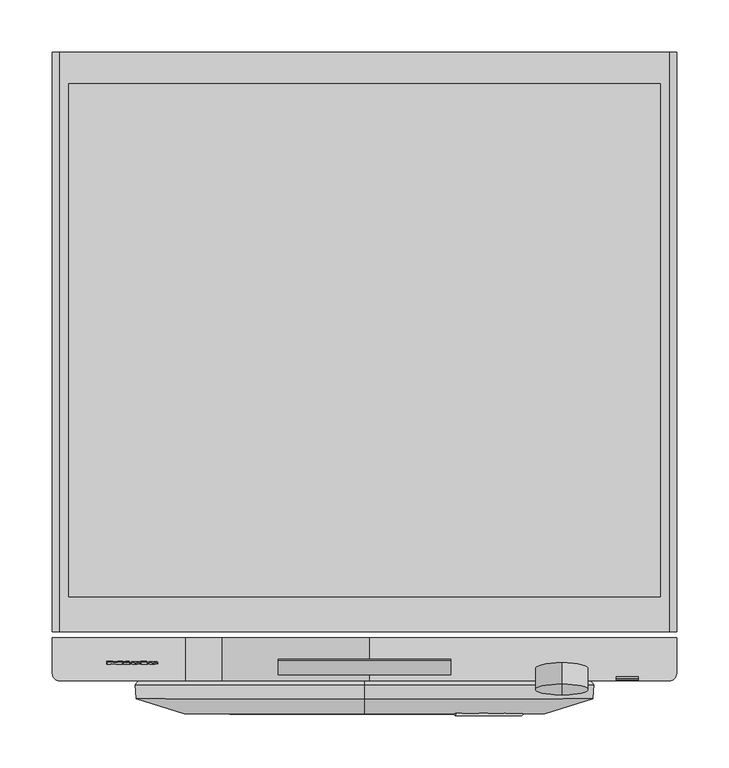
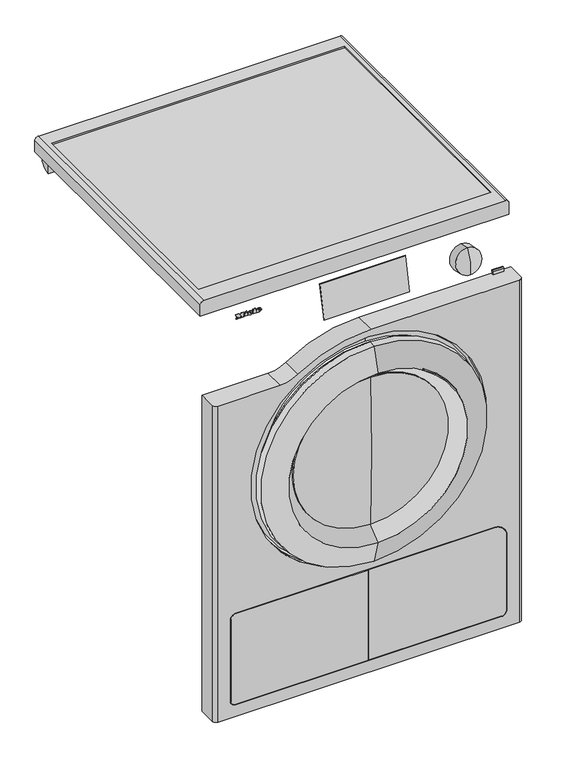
"""IFC4 building model written with IfcOpenShell, lengths in millimetres: proxy geometry, 13168560_GB_PDR1108HP_LWSmartBi : 52110802_GB_13168560_PDR1108HP_LWSmartBi."""

from ifc_helpers import new_model, si_unit, point, frame, frame_2d, origin, place, context, project, spatial, polyline, circle_curve, ellipse_curve, trimmed, segment, composite_curve, outline, extrude, source, transform, mapped, element, save
from ifc_brep_helpers import plane_surface, cylinder_surface, revolved_surface, extruded_surface, advanced_brep


def specialty_equipment_986e4557(model_context):
    return source(origin(), model_context, "Body", "SolidModel", [
        advanced_brep(
        [(-202.64, -583.6785086, 811.5729364), (-202.64, -583.5105159, 812.3632796), (-197.288, -583.5105159, 812.3632796), (-206.6, -583.5105159, 812.3632796), (-204.4, -584.0727091, 809.7183685), (-197.424, -583.6785086, 811.5729364), (-199.84, -583.6785086, 811.5729364), (-201.744, -583.8647975, 810.6965161), (-202.64, -583.2976144, 813.3649028), (-202.64, -583.1163154, 814.2178475), (-201.272, -583.1163154, 814.2178475), (-201.272, -583.2976144, 813.3649028), (-202.64, -582.700361, 811.3650247), (-201.744, -582.8866499, 810.4886044), (-199.84, -582.700361, 811.3650247), (-197.424, -582.700361, 811.3650247), (-204.4, -583.0945615, 809.5104568), (-206.6, -582.5323683, 812.1553679), (-197.288, -582.5323683, 812.1553679), (-202.64, -582.5323683, 812.1553679), (-202.64, -582.3194668, 813.1569911), (-201.272, -582.3194668, 813.1569911), (-201.272, -582.1381678, 814.0099358), (-202.64, -582.1381678, 814.0099358)],
        [
            (0, 1),
            (1, 2),
            (2, 3, ellipse_curve(frame((-201.944, -583.5105159, 812.3632796), z_axis=(0.0, -0.9781476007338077, 0.2079116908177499), x_axis=(-1.0, 0.0, 0.0)), 4.656, 3.848)),
            (3, 4, circle_curve(frame((-203.5039564, -583.453964, 812.6293358), z_axis=(0.0, -0.9781476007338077, 0.2079116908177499), x_axis=(0.0, -0.2079116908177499, -0.9781476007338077)), 3.1079688)),
            (4, 5, circle_curve(frame((-202.0372064, -583.0148545, 814.6951835), z_axis=(0.0, -0.9781476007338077, 0.2079116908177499), x_axis=(0.0, -0.2079116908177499, -0.9781476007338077)), 5.6098607)),
            (5, 6),
            (6, 7, circle_curve(frame((-201.3529412, -583.5238223, 812.3006782), z_axis=(0.0, 0.9781476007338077, -0.2079116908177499), x_axis=(0.0, -0.2079116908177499, -0.9781476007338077)), 1.6859795)),
            (7, 0, circle_curve(frame((-201.744, -583.6785086, 811.5729364), z_axis=(0.0, 0.9781476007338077, -0.2079116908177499), x_axis=(0.0, -0.2079116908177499, -0.9781476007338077)), 0.896)),
            (8, 9),
            (9, 10, circle_curve(frame((-201.956, -583.1163154, 814.2178475), z_axis=(0.0, 0.9781476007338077, -0.2079116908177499), x_axis=(0.0, -0.2079116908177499, -0.9781476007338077)), 0.684)),
            (10, 11),
            (11, 8),
            (12, 13, circle_curve(frame((-201.744, -582.700361, 811.3650247), z_axis=(0.0, -0.9781476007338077, 0.2079116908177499), x_axis=(0.0, -0.2079116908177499, -0.9781476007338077)), 0.896)),
            (13, 14, circle_curve(frame((-201.3529412, -582.5456747, 812.0927665), z_axis=(0.0, -0.9781476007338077, 0.2079116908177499), x_axis=(0.0, -0.2079116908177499, -0.9781476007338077)), 1.6859795)),
            (14, 15),
            (15, 16, circle_curve(frame((-202.0372064, -582.0367069, 814.4872718), z_axis=(0.0, 0.9781476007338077, -0.2079116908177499), x_axis=(0.0, -0.2079116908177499, -0.9781476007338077)), 5.6098607)),
            (16, 17, circle_curve(frame((-203.5039564, -582.4758164, 812.4214241), z_axis=(0.0, 0.9781476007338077, -0.2079116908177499), x_axis=(0.0, -0.2079116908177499, -0.9781476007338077)), 3.1079688)),
            (17, 18, ellipse_curve(frame((-201.944, -582.5323683, 812.1553679), z_axis=(0.0, 0.9781476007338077, -0.2079116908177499), x_axis=(-1.0, 0.0, 0.0)), 4.656, 3.848)),
            (18, 19),
            (19, 12),
            (20, 21),
            (21, 22),
            (22, 23, circle_curve(frame((-201.956, -582.1381678, 814.0099358), z_axis=(0.0, -0.9781476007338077, 0.2079116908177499), x_axis=(0.0, -0.2079116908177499, -0.9781476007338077)), 0.684)),
            (23, 20),
            (0, 12),
            (19, 1),
            (18, 2),
            (5, 15),
            (14, 6),
            (17, 3),
            (13, 7),
            (16, 4),
            (8, 20),
            (23, 9),
            (22, 10),
            (21, 11),
        ],
        [
            plane_surface(frame((-202.64, -583.5105159, 812.3632796), z_axis=(0.0, -0.9781476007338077, 0.2079116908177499), x_axis=(0.0, 0.2079116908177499, 0.9781476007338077))),
            plane_surface(frame((-202.64, -582.5323683, 812.1553679), z_axis=(0.0, 0.9781476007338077, -0.2079116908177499), x_axis=(0.0, -0.2079116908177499, -0.9781476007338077))),
            plane_surface(frame((-202.64, -583.6785086, 811.5729364), z_axis=(1.0000000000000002, 0.0, 0.0), x_axis=(0.0, 0.978147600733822, -0.20791169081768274))),
            plane_surface(frame((-202.64, -583.5105159, 812.3632796), z_axis=(0.0, -0.20791169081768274, -0.978147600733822), x_axis=(0.0, 0.978147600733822, -0.20791169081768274))),
            plane_surface(frame((-197.424, -583.6785086, 811.5729364), z_axis=(0.0, 0.20791169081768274, 0.978147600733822), x_axis=(0.0, 0.978147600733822, -0.20791169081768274))),
            extruded_surface(trimmed(ellipse_curve(frame((-201.944, -581.5542207, 811.9474562), z_axis=(0.0, -0.9781476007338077, 0.2079116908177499), x_axis=(-1.0, 0.0, 0.0)), 4.656, 3.848), [point((-197.288, -581.5542207, 811.9474562))], [point((-206.6, -581.5542207, 811.9474562))], True, "CARTESIAN"), (0.0, -0.9781476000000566, 0.20791169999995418), 1.0000000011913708),
            revolved_surface(polyline([(-201.3529412, -582.896209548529, 810.4436296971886), (-201.3529412, -583.8743571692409, 810.6515413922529)]), (-201.3529412, -582.5456747, 812.0927665), (0.0, 0.9781476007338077, -0.2079116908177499)),
            revolved_surface(polyline([(-201.744, -582.8866498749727, 810.4886044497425), (-201.744, -583.8647974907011, 810.6965161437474)]), (-201.744, -582.700361, 811.3650247), (0.0, 0.9781476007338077, -0.2079116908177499)),
            cylinder_surface(frame((-203.5039564, -582.4758164, 812.4214241), z_axis=(0.0, -0.9781476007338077, 0.2079116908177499), x_axis=(0.0, -0.2079116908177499, -0.9781476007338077)), 3.1079688),
            cylinder_surface(frame((-202.0372064, -582.0367069, 814.4872718), z_axis=(0.0, -0.9781476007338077, 0.2079116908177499), x_axis=(0.0, -0.2079116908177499, -0.9781476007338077)), 5.6098607),
            plane_surface(frame((-202.64, -583.2976144, 813.3649028), z_axis=(1.0000000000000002, 0.0, 0.0), x_axis=(0.0, 0.9781476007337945, -0.20791169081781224))),
            revolved_surface(polyline([(-201.956, -582.2803793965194, 813.340882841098), (-201.956, -583.2585269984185, 813.5487945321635)]), (-201.956, -582.1381678, 814.0099358), (0.0, 0.9781476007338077, -0.2079116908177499)),
            plane_surface(frame((-201.272, -583.1163154, 814.2178475), z_axis=(-1.0000000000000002, 0.0, 0.0), x_axis=(0.0, 0.978147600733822, -0.20791169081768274))),
            plane_surface(frame((-201.272, -583.2976144, 813.3649028), z_axis=(0.0, 0.20791169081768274, 0.978147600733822), x_axis=(0.0, 0.978147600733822, -0.20791169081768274))),
        ],
        [
            (0, [[1, 2, 3, 4, 5, 6, 7, 8], [9, 10, 11, 12]]),
            (1, [[13, 14, 15, 16, 17, 18, 19, 20], [21, 22, 23, 24]]),
            (2, [[-1, 25, -20, 26]]),
            (3, [[-2, -26, -19, 27]]),
            (4, [[-6, 28, -15, 29]]),
            (5, [[-3, -27, -18, 30]]),
            (6, [[-7, -29, -14, 31]]),
            (7, [[-8, -31, -13, -25]]),
            (8, [[-4, -30, -17, 32]]),
            (9, [[-5, -32, -16, -28]]),
            (10, [[-9, 33, -24, 34]]),
            (11, [[-10, -34, -23, 35]]),
            (12, [[-11, -35, -22, 36]]),
            (13, [[-12, -36, -21, -33]]),
        ],
    ),
        advanced_brep(
        [(-219.336, -583.6785086, 811.5729364), (-219.336, -583.5105159, 812.3632796), (-213.984, -583.5105159, 812.3632796), (-223.296, -583.5105159, 812.3632796), (-221.096, -584.0727091, 809.7183685), (-214.12, -583.6785086, 811.5729364), (-216.536, -583.6785086, 811.5729364), (-218.44, -583.8647975, 810.6965161), (-219.336, -583.2976144, 813.3649028), (-219.336, -583.1163154, 814.2178475), (-217.968, -583.1163154, 814.2178475), (-217.968, -583.2976144, 813.3649028), (-219.336, -582.700361, 811.3650247), (-218.44, -582.8866499, 810.4886044), (-216.536, -582.700361, 811.3650247), (-214.12, -582.700361, 811.3650247), (-221.096, -583.0945615, 809.5104568), (-223.296, -582.5323683, 812.1553679), (-213.984, -582.5323683, 812.1553679), (-219.336, -582.5323683, 812.1553679), (-219.336, -582.3194668, 813.1569911), (-217.968, -582.3194668, 813.1569911), (-217.968, -582.1381678, 814.0099358), (-219.336, -582.1381678, 814.0099358)],
        [
            (0, 1),
            (1, 2),
            (2, 3, ellipse_curve(frame((-218.64, -583.5105159, 812.3632796), z_axis=(0.0, -0.9781476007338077, 0.2079116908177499), x_axis=(-1.0, 0.0, 0.0)), 4.656, 3.848)),
            (3, 4, circle_curve(frame((-220.1999564, -583.453964, 812.6293358), z_axis=(0.0, -0.9781476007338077, 0.2079116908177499), x_axis=(0.0, -0.2079116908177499, -0.9781476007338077)), 3.1079688)),
            (4, 5, circle_curve(frame((-218.7332064, -583.0148545, 814.6951835), z_axis=(0.0, -0.9781476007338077, 0.2079116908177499), x_axis=(0.0, -0.2079116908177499, -0.9781476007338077)), 5.6098607)),
            (5, 6),
            (6, 7, circle_curve(frame((-218.0489412, -583.5238223, 812.3006782), z_axis=(0.0, 0.9781476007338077, -0.2079116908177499), x_axis=(0.0, -0.2079116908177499, -0.9781476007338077)), 1.6859795)),
            (7, 0, circle_curve(frame((-218.44, -583.6785086, 811.5729364), z_axis=(0.0, 0.9781476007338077, -0.2079116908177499), x_axis=(0.0, -0.2079116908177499, -0.9781476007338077)), 0.896)),
            (8, 9),
            (9, 10, circle_curve(frame((-218.652, -583.1163154, 814.2178475), z_axis=(0.0, 0.9781476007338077, -0.2079116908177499), x_axis=(0.0, -0.2079116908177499, -0.9781476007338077)), 0.684)),
            (10, 11),
            (11, 8),
            (12, 13, circle_curve(frame((-218.44, -582.700361, 811.3650247), z_axis=(0.0, -0.9781476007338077, 0.2079116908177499), x_axis=(0.0, -0.2079116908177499, -0.9781476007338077)), 0.896)),
            (13, 14, circle_curve(frame((-218.0489412, -582.5456747, 812.0927665), z_axis=(0.0, -0.9781476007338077, 0.2079116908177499), x_axis=(0.0, -0.2079116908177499, -0.9781476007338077)), 1.6859795)),
            (14, 15),
            (15, 16, circle_curve(frame((-218.7332064, -582.0367069, 814.4872718), z_axis=(0.0, 0.9781476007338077, -0.2079116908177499), x_axis=(0.0, -0.2079116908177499, -0.9781476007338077)), 5.6098607)),
            (16, 17, circle_curve(frame((-220.1999564, -582.4758164, 812.4214241), z_axis=(0.0, 0.9781476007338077, -0.2079116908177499), x_axis=(0.0, -0.2079116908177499, -0.9781476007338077)), 3.1079688)),
            (17, 18, ellipse_curve(frame((-218.64, -582.5323683, 812.1553679), z_axis=(0.0, 0.9781476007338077, -0.2079116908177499), x_axis=(-1.0, 0.0, 0.0)), 4.656, 3.848)),
            (18, 19),
            (19, 12),
            (20, 21),
            (21, 22),
            (22, 23, circle_curve(frame((-218.652, -582.1381678, 814.0099358), z_axis=(0.0, -0.9781476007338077, 0.2079116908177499), x_axis=(0.0, -0.2079116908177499, -0.9781476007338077)), 0.684)),
            (23, 20),
            (0, 12),
            (19, 1),
            (18, 2),
            (5, 15),
            (14, 6),
            (17, 3),
            (13, 7),
            (16, 4),
            (8, 20),
            (23, 9),
            (22, 10),
            (21, 11),
        ],
        [
            plane_surface(frame((-219.336, -583.5105159, 812.3632796), z_axis=(0.0, -0.9781476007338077, 0.2079116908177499), x_axis=(0.0, 0.2079116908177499, 0.9781476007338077))),
            plane_surface(frame((-219.336, -582.5323683, 812.1553679), z_axis=(0.0, 0.9781476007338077, -0.2079116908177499), x_axis=(0.0, -0.2079116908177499, -0.9781476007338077))),
            plane_surface(frame((-219.336, -583.6785086, 811.5729364), z_axis=(1.0000000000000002, 0.0, 0.0), x_axis=(0.0, 0.978147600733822, -0.20791169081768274))),
            plane_surface(frame((-219.336, -583.5105159, 812.3632796), z_axis=(0.0, -0.20791169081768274, -0.978147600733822), x_axis=(0.0, 0.978147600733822, -0.20791169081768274))),
            plane_surface(frame((-214.12, -583.6785086, 811.5729364), z_axis=(0.0, 0.20791169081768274, 0.978147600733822), x_axis=(0.0, 0.978147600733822, -0.20791169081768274))),
            extruded_surface(trimmed(ellipse_curve(frame((-218.64, -581.5542207, 811.9474562), z_axis=(0.0, -0.9781476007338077, 0.2079116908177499), x_axis=(-1.0, 0.0, 0.0)), 4.656, 3.848), [point((-213.984, -581.5542207, 811.9474562))], [point((-223.296, -581.5542207, 811.9474562))], True, "CARTESIAN"), (0.0, -0.9781476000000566, 0.20791169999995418), 1.0000000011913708),
            revolved_surface(polyline([(-218.0489412, -582.896209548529, 810.4436296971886), (-218.0489412, -583.8743571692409, 810.6515413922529)]), (-218.0489412, -582.5456747, 812.0927665), (0.0, 0.9781476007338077, -0.2079116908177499)),
            revolved_surface(polyline([(-218.44, -582.8866498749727, 810.4886044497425), (-218.44, -583.8647974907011, 810.6965161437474)]), (-218.44, -582.700361, 811.3650247), (0.0, 0.9781476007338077, -0.2079116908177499)),
            cylinder_surface(frame((-220.1999564, -582.4758164, 812.4214241), z_axis=(0.0, -0.9781476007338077, 0.2079116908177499), x_axis=(0.0, -0.2079116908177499, -0.9781476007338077)), 3.1079688),
            cylinder_surface(frame((-218.7332064, -582.0367069, 814.4872718), z_axis=(0.0, -0.9781476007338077, 0.2079116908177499), x_axis=(0.0, -0.2079116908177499, -0.9781476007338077)), 5.6098607),
            plane_surface(frame((-219.336, -583.2976144, 813.3649028), z_axis=(1.0000000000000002, 0.0, 0.0), x_axis=(0.0, 0.9781476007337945, -0.20791169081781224))),
            revolved_surface(polyline([(-218.652, -582.2803793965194, 813.340882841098), (-218.652, -583.2585269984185, 813.5487945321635)]), (-218.652, -582.1381678, 814.0099358), (0.0, 0.9781476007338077, -0.2079116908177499)),
            plane_surface(frame((-217.968, -583.1163154, 814.2178475), z_axis=(-1.0000000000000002, 0.0, 0.0), x_axis=(0.0, 0.978147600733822, -0.20791169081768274))),
            plane_surface(frame((-217.968, -583.2976144, 813.3649028), z_axis=(0.0, 0.20791169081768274, 0.978147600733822), x_axis=(0.0, 0.978147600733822, -0.20791169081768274))),
        ],
        [
            (0, [[1, 2, 3, 4, 5, 6, 7, 8], [9, 10, 11, 12]]),
            (1, [[13, 14, 15, 16, 17, 18, 19, 20], [21, 22, 23, 24]]),
            (2, [[-1, 25, -20, 26]]),
            (3, [[-2, -26, -19, 27]]),
            (4, [[-6, 28, -15, 29]]),
            (5, [[-3, -27, -18, 30]]),
            (6, [[-7, -29, -14, 31]]),
            (7, [[-8, -31, -13, -25]]),
            (8, [[-4, -30, -17, 32]]),
            (9, [[-5, -32, -16, -28]]),
            (10, [[-9, 33, -24, 34]]),
            (11, [[-10, -34, -23, 35]]),
            (12, [[-11, -35, -22, 36]]),
            (13, [[-12, -36, -21, -33]]),
        ],
    ),
        extrude(outline(polyline([(0.0, 0.0), (-0.0109087, -2.9993294), (-1.4390416, -2.9920868), (-1.4315307, 0.0), (0.0, 0.0)])), frame((-228.08, -581.5294023, 816.873952), z_axis=(0.0, -0.9781476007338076, 0.20791169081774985), x_axis=(-0.42472021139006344, 0.18822758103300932, 0.8855411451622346)), (0.0, 0.0, 1.0), 1.0),
        extrude(outline(polyline([(-0.4933908, 2.4141097), (-2.7800844, -2.4601583), (-7.0459742, -0.4588766), (-7.4401146, -1.2990179), (-8.6568709, -0.728194), (-5.976037, 4.9862153), (-4.7592806, 4.4153913), (-5.1636142, 3.5535223), (-2.1941494, 2.16044), (-1.7898157, 3.0223091), (-0.4933908, 2.4141097)])), frame((-228.08, -581.5294023, 816.873952), z_axis=(0.0, -0.9781476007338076, 0.20791169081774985), x_axis=(-0.42472021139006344, 0.18822758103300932, 0.8855411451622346)), (0.0, 0.0, 1.0), 1.0),
        extrude(outline(polyline([(0.0, 0.0), (0.0, -1.3039999), (-5.504, -1.3039999), (-5.504, 5.352), (-6.488, 5.352), (-6.488, 6.696), (0.0, 6.696), (0.0, 5.352), (-0.96, 5.352), (-0.96, 0.0), (0.0, 0.0)])), frame((-213.536, -581.7023849, 816.0601332), z_axis=(0.0, -0.9781476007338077, 0.2079116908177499), x_axis=(-1.0, 0.0, 0.0)), (0.0, 0.0, 1.0), 1.0),
        extrude(outline(polyline([(0.0, 0.0), (0.0, -1.3039999), (-5.576, -1.3039999), (-7.92, 1.6960001), (-10.256, -1.3039999), (-15.128, -1.3039999), (-15.128, 0.0), (-14.112, 0.0), (-14.112, 5.352), (-15.128, 5.352), (-15.128, 6.696), (-8.744, 6.696), (-8.744, 5.352), (-9.728, 5.352), (-9.728, 1.8807777), (-6.136, 6.696), (-2.56, 1.9488753), (-2.56, 5.352), (-3.52, 5.352), (-3.52, 6.696), (0.0, 6.696), (0.0, 5.352), (-0.968, 5.352), (-0.968, 0.0), (0.0, 0.0)])), frame((-246.0, -581.7023849, 816.0601332), z_axis=(0.0, -0.9781476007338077, 0.2079116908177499), x_axis=(-1.0, 0.0, 0.0)), (0.0, 0.0, 1.0), 1.0),
        extrude(outline(composite_curve([segment(trimmed(circle_curve(frame_2d((579.5, 0.0)), 230.0), [point((386.3181818, 124.8230152))], [point((386.3181818, -124.8230152))], True, "CARTESIAN"), True, "CONTINUOUS"), segment(trimmed(circle_curve(frame_2d((469.5, 0.0)), 150.0), [point((386.3181818, -124.8230152))], [point((386.3181818, 124.8230152))], False, "CARTESIAN"), True, "CONTINUOUS")], self_intersect=False)), frame((0.0, -603.8, 0.0), z_axis=(0.0, 1.0, 0.0), x_axis=(0.0, 0.0, 1.0)), (0.0, 0.0, 1.0), 12.6),
        advanced_brep(
        [(86.55, -633.167863, 619.4089974), (86.55, -630.167863, 619.4089974), (149.9089974, -633.167863, 556.05), (149.9089974, -630.167863, 556.05)],
        [
            (0, 1, circle_curve(frame((86.55, -631.667863, 619.4089974), z_axis=(-0.8660254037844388, 0.0, 0.49999999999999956), x_axis=(0.0, 1.0, 0.0)), 1.5)),
            (1, 0, circle_curve(frame((86.55, -631.667863, 619.4089974), z_axis=(-0.8660254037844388, 0.0, 0.49999999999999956), x_axis=(0.0, 1.0, 0.0)), 1.5)),
            (2, 3, circle_curve(frame((149.9089974, -631.667863, 556.05), z_axis=(0.5000000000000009, 0.0, -0.8660254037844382), x_axis=(0.0, 1.0, 0.0)), 1.5)),
            (3, 2, circle_curve(frame((149.9089974, -631.667863, 556.05), z_axis=(0.5000000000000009, 0.0, -0.8660254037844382), x_axis=(0.0, 1.0, 0.0)), 1.5)),
            (2, 0, circle_curve(frame((0.0, -633.167863, 469.5), z_axis=(0.0, -1.0, 0.0), x_axis=(0.49999999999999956, 0.0, 0.8660254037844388)), 173.1)),
            (1, 3, circle_curve(frame((0.0, -630.167863, 469.5), z_axis=(0.0, 1.0, 0.0), x_axis=(0.49999999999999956, 0.0, 0.8660254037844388)), 173.1)),
        ],
        [
            plane_surface(frame((0.0, 1543.3738435, 469.5), z_axis=(-0.8660254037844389, 0.0, 0.4999999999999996), x_axis=(0.4999999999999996, 0.0, 0.8660254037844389))),
            plane_surface(frame((0.0, 1543.3738435, 469.5), z_axis=(0.5000000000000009, 0.0, -0.8660254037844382), x_axis=(0.8660254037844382, 0.0, 0.5000000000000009))),
            revolved_surface(trimmed(ellipse_curve(frame((86.55, -631.667863, 619.4089974), z_axis=(0.8660254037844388, 0.0, -0.49999999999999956), x_axis=(0.0, 1.0, 0.0)), 1.5, 1.5), [point((86.55, -633.167863, 619.4089974))], [point((86.55, -630.167863, 619.4089974))], True, "CARTESIAN"), (0.0, 1543.3738435, 469.5), (0.0, -1.0, 0.0)),
            revolved_surface(trimmed(ellipse_curve(frame((86.55, -631.667863, 619.4089974), z_axis=(0.8660254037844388, 0.0, -0.49999999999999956), x_axis=(0.0, 1.0, 0.0)), 1.5, 1.5), [point((86.55, -630.167863, 619.4089974))], [point((86.55, -633.167863, 619.4089974))], True, "CARTESIAN"), (0.0, 1543.3738435, 469.5), (0.0, -1.0, 0.0)),
        ],
        [
            (0, [[1, 2]]),
            (1, [[3, 4]]),
            (2, [[5, -2, 6, -3]]),
            (3, [[-6, -1, -5, -4]]),
        ],
    ),
        advanced_brep(
        [(0.0, -591.2, 319.5), (0.0, -591.2, 619.5), (0.0, -603.5454628, 619.5), (0.0, -603.5454628, 319.5), (0.0, -591.2, 305.5), (0.0, -591.2, 633.5), (0.0, -588.0, 294.0), (0.0, -588.0, 645.0), (0.0, -588.0, 262.2782663), (0.0, -588.0, 676.7217337), (0.0, -603.8, 249.3), (0.0, -603.8, 689.7), (0.0, -617.2157986, 250.5), (0.0, -617.2157986, 688.5), (0.0, -631.667863, 296.4), (0.0, -631.667863, 642.6)],
        [
            (0, 1, circle_curve(frame((0.0, -591.2, 469.5), z_axis=(0.0, 1.0, 0.0), x_axis=(0.0, 0.0, 1.0)), 150.0)),
            (1, 2),
            (2, 3, circle_curve(frame((0.0, -603.5454628, 469.5), z_axis=(0.0, -1.0, 0.0), x_axis=(0.0, 0.0, 1.0)), 150.0)),
            (3, 0),
            (1, 0, circle_curve(frame((0.0, -591.2, 469.5), z_axis=(0.0, 1.0, 0.0), x_axis=(0.0, 0.0, 1.0)), 150.0)),
            (3, 2, circle_curve(frame((0.0, -603.5454628, 469.5), z_axis=(0.0, -1.0, 0.0), x_axis=(0.0, 0.0, 1.0)), 150.0)),
            (4, 5, circle_curve(frame((0.0, -591.2, 469.5), z_axis=(0.0, 1.0, 0.0), x_axis=(0.0, 0.0, 1.0)), 164.0)),
            (5, 1),
            (0, 4),
            (5, 4, circle_curve(frame((0.0, -591.2, 469.5), z_axis=(0.0, 1.0, 0.0), x_axis=(0.0, 0.0, 1.0)), 164.0)),
            (6, 7, circle_curve(frame((0.0, -588.0, 469.5), z_axis=(0.0, 1.0, 0.0), x_axis=(0.0, 0.0, 1.0)), 175.5)),
            (7, 5),
            (4, 6),
            (7, 6, circle_curve(frame((0.0, -588.0, 469.5), z_axis=(0.0, 1.0, 0.0), x_axis=(0.0, 0.0, 1.0)), 175.5)),
            (8, 9, circle_curve(frame((0.0, -588.0, 469.5), z_axis=(0.0, 1.0, 0.0), x_axis=(0.0, 0.0, 1.0)), 207.2217337)),
            (9, 7),
            (6, 8),
            (9, 8, circle_curve(frame((0.0, -588.0, 469.5), z_axis=(0.0, 1.0, 0.0), x_axis=(0.0, 0.0, 1.0)), 207.2217337)),
            (10, 11, circle_curve(frame((0.0, -603.8, 469.5), z_axis=(0.0, 1.0, 0.0), x_axis=(0.0, 0.0, 1.0)), 220.2)),
            (11, 9),
            (8, 10),
            (11, 10, circle_curve(frame((0.0, -603.8, 469.5), z_axis=(0.0, 1.0, 0.0), x_axis=(0.0, 0.0, 1.0)), 220.2)),
            (12, 13, circle_curve(frame((0.0, -617.2157986, 469.5), z_axis=(0.0, 1.0, 0.0), x_axis=(0.0, 0.0, 1.0)), 219.0)),
            (13, 11),
            (10, 12),
            (13, 12, circle_curve(frame((0.0, -617.2157986, 469.5), z_axis=(0.0, 1.0, 0.0), x_axis=(0.0, 0.0, 1.0)), 219.0)),
            (14, 15, circle_curve(frame((0.0, -631.667863, 469.5), z_axis=(0.0, 1.0, 0.0), x_axis=(0.0, 0.0, 1.0)), 173.1)),
            (15, 13, circle_curve(frame((0.0, -52.6, 485.5), z_axis=(-1.0, 0.0, 0.0), x_axis=(0.0, 1.0, 0.0)), 600.0)),
            (12, 14, circle_curve(frame((0.0, -52.6, 453.5), z_axis=(-1.0, 0.0, 0.0), x_axis=(0.0, 1.0, 0.0)), 600.0)),
            (15, 14, circle_curve(frame((0.0, -631.667863, 469.5), z_axis=(0.0, 1.0, 0.0), x_axis=(0.0, 0.0, 1.0)), 173.1)),
            (2, 15),
            (14, 3),
        ],
        [
            revolved_surface(polyline([(0.0, -603.5454628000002, 619.5), (0.0, -591.2000000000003, 619.5)]), (0.0, 1543.3738435, 469.5), (0.0, -1.0, 0.0)),
            plane_surface(frame((0.0, -591.2, 469.5), z_axis=(0.0, 1.0, 0.0), x_axis=(0.0, 0.0, 1.0))),
            revolved_surface(polyline([(0.0, -591.2, 633.5), (0.0, -588.0, 645.0)]), (0.0, 1543.3738435, 469.5), (0.0, -1.0, 0.0)),
            plane_surface(frame((0.0, -588.0, 469.5), z_axis=(0.0, 1.0, 0.0), x_axis=(0.0, 0.0, 1.0))),
            revolved_surface(polyline([(0.0, -588.0, 676.7217337), (0.0, -603.8, 689.7)]), (0.0, 1543.3738435, 469.5), (0.0, -1.0, 0.0)),
            revolved_surface(polyline([(0.0, -603.8, 689.7), (0.0, -617.2157986, 688.5)]), (0.0, 1543.3738435, 469.5), (0.0, -1.0, 0.0)),
            revolved_surface(trimmed(ellipse_curve(frame((0.0, -52.6, 485.5), z_axis=(1.0, 0.0, 0.0), x_axis=(0.0, 1.0, 0.0)), 600.0, 600.0), [point((0.0, -617.2157986, 688.5))], [point((0.0, -631.667863, 642.6))], True, "CARTESIAN"), (0.0, 1543.3738435, 469.5), (0.0, -1.0, 0.0)),
            revolved_surface(polyline([(0.0, -631.667863, 642.6), (0.0, -603.5454628, 619.5)]), (0.0, 1543.3738435, 469.5), (0.0, -1.0, 0.0)),
        ],
        [
            (0, [[1, 2, 3, 4]]),
            (0, [[5, -4, 6, -2]]),
            (1, [[7, 8, -1, 9]]),
            (1, [[10, -9, -5, -8]]),
            (2, [[11, 12, -7, 13]]),
            (2, [[14, -13, -10, -12]]),
            (3, [[15, 16, -11, 17]]),
            (3, [[18, -17, -14, -16]]),
            (4, [[19, 20, -15, 21]]),
            (4, [[22, -21, -18, -20]]),
            (5, [[23, 24, -19, 25]]),
            (5, [[26, -25, -22, -24]]),
            (6, [[27, 28, -23, 29]]),
            (6, [[30, -29, -26, -28]]),
            (7, [[-3, 31, -27, 32]]),
            (7, [[-6, -32, -30, -31]]),
        ],
    ),
        advanced_brep(
        [(0.0, -604.3847498, 319.5), (0.0, -604.3847498, 619.5), (0.0, -607.2, 469.5), (0.0, -606.8865105, 319.5), (0.0, -606.8865105, 619.5), (0.0, -609.7, 469.5)],
        [
            (0, 1, circle_curve(frame((0.0, -604.3847498, 469.5), z_axis=(0.0, 1.0, 0.0), x_axis=(0.0, 0.0, 1.0)), 150.0)),
            (1, 2, circle_curve(frame((0.0, 3390.3, 469.5), z_axis=(1.0, 0.0, 0.0), x_axis=(0.0, 1.0, 0.0)), 3997.5)),
            (2, 0, circle_curve(frame((0.0, 3390.3, 469.5), z_axis=(1.0, 0.0, 0.0), x_axis=(0.0, 1.0, 0.0)), 3997.5)),
            (1, 0, circle_curve(frame((0.0, -604.3847498, 469.5), z_axis=(0.0, 1.0, 0.0), x_axis=(0.0, 0.0, 1.0)), 150.0)),
            (3, 4, circle_curve(frame((0.0, -606.8865105, 469.5), z_axis=(0.0, 1.0, 0.0), x_axis=(0.0, 0.0, 1.0)), 150.0)),
            (4, 1),
            (0, 3),
            (4, 3, circle_curve(frame((0.0, -606.8865105, 469.5), z_axis=(0.0, 1.0, 0.0), x_axis=(0.0, 0.0, 1.0)), 150.0)),
            (5, 4, circle_curve(frame((0.0, 3390.3, 469.5), z_axis=(-1.0, 0.0, 0.0), x_axis=(0.0, 1.0, 0.0)), 4000.0)),
            (3, 5, circle_curve(frame((0.0, 3390.3, 469.5), z_axis=(-1.0, 0.0, 0.0), x_axis=(0.0, 1.0, 0.0)), 4000.0)),
        ],
        [
            revolved_surface(trimmed(ellipse_curve(frame((0.0, 3390.3, 469.5), z_axis=(-1.0, 0.0, 0.0), x_axis=(0.0, 1.0, 0.0)), 3997.5, 3997.5), [point((0.0, -607.2, 469.5))], [point((0.0, -604.3847498, 619.5))], True, "CARTESIAN"), (0.0, 1543.3738435, 469.5), (0.0, -1.0, 0.0)),
            cylinder_surface(frame((0.0, 1543.3738435, 469.5), z_axis=(0.0, -1.0, 0.0), x_axis=(0.0, 0.0, 1.0)), 150.0),
            revolved_surface(trimmed(ellipse_curve(frame((0.0, 3390.3, 469.5), z_axis=(1.0, 0.0, 0.0), x_axis=(0.0, 1.0, 0.0)), 4000.0, 4000.0), [point((0.0, -606.8865105, 619.5))], [point((0.0, -609.7, 469.5))], True, "CARTESIAN"), (0.0, 1543.3738435, 469.5), (0.0, -1.0, 0.0)),
        ],
        [
            (0, [[1, 2, 3]]),
            (0, [[4, -3, -2]]),
            (1, [[5, 6, -1, 7]]),
            (1, [[8, -7, -4, -6]]),
            (2, [[9, -5, 10]]),
            (2, [[-10, -8, -9]]),
        ],
    ),
        advanced_brep(
        [(-291.0, -553.0, 845.0), (291.0, -553.0, 845.0), (291.0, 0.0, 845.0), (-291.0, 0.0, 845.0), (-282.5, -30.0, 845.0), (282.5, -30.0, 845.0), (282.5, -520.0, 845.0), (-282.5, -520.0, 845.0), (-282.5, -30.0, 842.7), (282.5, -30.0, 842.7), (298.0, -553.0, 815.0), (-298.0, -553.0, 815.0), (-298.0, 0.0, 815.0), (298.0, 0.0, 815.0), (298.0, -553.0, 838.0), (-298.0, -553.0, 838.0), (-298.0, 0.0, 838.0), (298.0, 0.0, 838.0), (-282.5, -520.0, 842.7), (282.5, -520.0, 842.7)],
        [
            (0, 1),
            (1, 2),
            (2, 3),
            (3, 0),
            (4, 5),
            (5, 6),
            (6, 7),
            (7, 4),
            (8, 9),
            (9, 5),
            (4, 8),
            (10, 11),
            (11, 12),
            (12, 13),
            (13, 10),
            (10, 14),
            (14, 1, circle_curve(frame((291.0, -553.0, 838.0), z_axis=(0.0, -1.0, 0.0), x_axis=(1.0, 0.0, 0.0)), 7.0)),
            (0, 15, circle_curve(frame((-291.0, -553.0, 838.0), z_axis=(0.0, -1.0, 0.0), x_axis=(1.0, 0.0, 0.0)), 7.0)),
            (15, 11),
            (12, 16),
            (16, 3, circle_curve(frame((-291.0, 0.0, 838.0), z_axis=(0.0, 1.0, 0.0), x_axis=(1.0, 0.0, 0.0)), 7.0)),
            (2, 17, circle_curve(frame((291.0, 0.0, 838.0), z_axis=(0.0, 1.0, 0.0), x_axis=(1.0, 0.0, 0.0)), 7.0)),
            (17, 13),
            (17, 14),
            (15, 16),
            (8, 18),
            (18, 19),
            (19, 9),
            (7, 18),
            (19, 6),
        ],
        [
            plane_surface(frame((291.0, -553.0, 845.0), z_axis=(0.0, 0.0, 1.0), x_axis=(0.0, 1.0, 0.0))),
            plane_surface(frame((282.5, -30.0, 845.0), z_axis=(0.0, -1.0, 0.0), x_axis=(0.0, 0.0, -1.0))),
            plane_surface(frame((-298.0, -553.0, 815.0), z_axis=(0.0, 0.0, -1.0), x_axis=(0.0, 1.0, 0.0))),
            plane_surface(frame((298.0, -553.0, 815.0), z_axis=(0.0, -1.0, 0.0), x_axis=(0.0, 0.0, 1.0))),
            plane_surface(frame((298.0, 0.0, 815.0), z_axis=(0.0, 1.0, 0.0), x_axis=(0.0, 0.0, -1.0))),
            plane_surface(frame((298.0, -553.0, 815.0), z_axis=(1.0, 0.0, 0.0), x_axis=(0.0, 1.0, 0.0))),
            plane_surface(frame((-298.0, -553.0, 838.0), z_axis=(-1.0, 0.0, 0.0), x_axis=(0.0, 1.0, 0.0))),
            cylinder_surface(frame((291.0, 0.0, 838.0), z_axis=(0.0, -1.0, 0.0), x_axis=(1.0, 0.0, 0.0)), 7.0),
            cylinder_surface(frame((-291.0, 0.0, 838.0), z_axis=(0.0, -1.0, 0.0), x_axis=(1.0, 0.0, 0.0)), 7.0),
            plane_surface(frame((-282.5, -30.0, 842.7), z_axis=(0.0, 0.0, 1.0), x_axis=(1.0, 0.0, 0.0))),
            plane_surface(frame((-282.5, -30.0, 845.0), z_axis=(1.0, 0.0, 0.0), x_axis=(0.0, 0.0, -1.0))),
            plane_surface(frame((282.5, -520.0, 845.0), z_axis=(-1.0, 0.0, 0.0), x_axis=(0.0, 0.0, -1.0))),
            plane_surface(frame((-282.5, -520.0, 845.0), z_axis=(0.0, 1.0, 0.0), x_axis=(0.0, 0.0, -1.0))),
        ],
        [
            (0, [[1, 2, 3, 4], [5, 6, 7, 8]]),
            (1, [[9, 10, -5, 11]]),
            (2, [[12, 13, 14, 15]]),
            (3, [[16, 17, -1, 18, 19, -12]]),
            (4, [[-14, 20, 21, -3, 22, 23]]),
            (5, [[-16, -15, -23, 24]]),
            (6, [[-19, 25, -20, -13]]),
            (7, [[-17, -24, -22, -2]]),
            (8, [[-18, -4, -21, -25]]),
            (9, [[-9, 26, 27, 28]]),
            (10, [[-26, -11, -8, 29]]),
            (11, [[-28, 30, -6, -10]]),
            (12, [[-27, -29, -7, -30]]),
        ],
    ),
        extrude(outline(composite_curve([segment(polyline([(-6.6220839, 815.0), (-6.6220839, 806.1251898)]), True, "CONTINUOUS"), segment(trimmed(circle_curve(frame_2d((-29.0, 806.1251898)), 22.3779161), [point((-6.6220839, 806.1251898))], [point((-28.0, 783.7696284))], False, "CARTESIAN"), True, "CONTINUOUS"), segment(polyline([(-28.0, 783.7696284), (-28.0, 815.0), (-6.6220839, 815.0)]), True, "CONTINUOUS")], self_intersect=False)), frame((264.2, 0.0, 0.0), z_axis=(1.0, 0.0, 0.0), x_axis=(0.0, 1.0, 0.0)), (0.0, 0.0, 1.0), 24.0),
        extrude(outline(composite_curve([segment(polyline([(-28.0, 783.7696284), (-28.0, 815.0), (-6.6220839, 815.0), (-6.6220839, 806.1251898)]), True, "CONTINUOUS"), segment(trimmed(circle_curve(frame_2d((-29.0, 806.1251898)), 22.3779161), [point((-6.6220839, 806.1251898))], [point((-28.0, 783.7696284))], False, "CARTESIAN"), True, "CONTINUOUS")], self_intersect=False)), frame((-288.2, 0.0, 0.0), z_axis=(1.0, 0.0, 0.0), x_axis=(0.0, 1.0, 0.0)), (0.0, 0.0, 1.0), 24.0),
        extrude(outline(composite_curve([segment(trimmed(circle_curve(frame_2d((427.0147084, 38.0)), 155.0), [point((311.4845296, 141.3333333))], [point((427.0147084, 193.0))], False, "CARTESIAN"), True, "CONTINUOUS"), segment(trimmed(circle_curve(frame_2d((387.1232766, 189.5231113)), 40.0426658), [point((427.0147084, 193.0))], [point((415.6484905, 161.421025))], False, "CARTESIAN"), True, "CONTINUOUS"), segment(trimmed(circle_curve(frame_2d((579.5, 0.0)), 230.0088355), [point((415.6484905, 161.421025))], [point((415.6783922, -161.4513711))], True, "CARTESIAN"), True, "CONTINUOUS"), segment(trimmed(circle_curve(frame_2d((387.1882141, -189.5293418)), 40.0007835), [point((415.6783922, -161.4513711))], [point((427.0381479, -192.9999982))], False, "CARTESIAN"), True, "CONTINUOUS"), segment(trimmed(circle_curve(frame_2d((427.0147084, -38.0)), 155.0), [point((427.0381479, -192.9999982))], [point((311.4845296, -141.3333333))], False, "CARTESIAN"), True, "CONTINUOUS"), segment(trimmed(circle_curve(frame_2d((469.5, 0.0)), 212.0), [point((311.4845296, -141.3333333))], [point((311.4845296, 141.3333333))], False, "CARTESIAN"), True, "CONTINUOUS")], self_intersect=False)), frame((0.0, -592.0, 0.0), z_axis=(0.0, 1.0, 0.0), x_axis=(0.0, 0.0, 1.0)), (0.0, 0.0, 1.0), 33.0),
        advanced_brep(
        [(257.0, -600.0, 38.0), (257.0, -559.0, 38.0), (266.0, -559.0, 47.0), (266.0, -600.0, 47.0), (266.0, -559.0, 200.0), (266.0, -600.0, 200.0), (244.0, -559.0, 222.0), (244.0, -600.0, 222.0), (1.0, -559.0, 38.0), (1.0, -559.0, 222.0), (1.0, -600.0, 38.0), (1.0, -600.0, 222.0)],
        [
            (0, 1),
            (1, 2, circle_curve(frame((257.0, -559.0, 47.0), z_axis=(0.0, -1.0, 0.0), x_axis=(1.0, 0.0, 0.0)), 9.0)),
            (2, 3),
            (3, 0, circle_curve(frame((257.0, -600.0, 47.0), z_axis=(0.0, 1.0, 0.0), x_axis=(1.0, 0.0, 0.0)), 9.0)),
            (4, 5),
            (5, 3),
            (2, 4),
            (6, 7),
            (7, 5, circle_curve(frame((244.0, -600.0, 200.0), z_axis=(0.0, 1.0, 0.0), x_axis=(1.0, 0.0, 0.0)), 22.0)),
            (4, 6, circle_curve(frame((244.0, -559.0, 200.0), z_axis=(0.0, -1.0, 0.0), x_axis=(1.0, 0.0, 0.0)), 22.0)),
            (1, 8),
            (8, 9),
            (9, 6),
            (10, 0),
            (7, 11),
            (11, 10),
            (10, 8),
            (11, 9),
        ],
        [
            cylinder_surface(frame((257.0, 0.0, 47.0), z_axis=(0.0, 1.0, 0.0), x_axis=(1.0, 0.0, 0.0)), 9.0),
            plane_surface(frame((266.0, -600.0, 200.0), z_axis=(1.0, 0.0, 0.0), x_axis=(0.0, 1.0, 0.0))),
            cylinder_surface(frame((244.0, 0.0, 200.0), z_axis=(0.0, 1.0, 0.0), x_axis=(1.0, 0.0, 0.0)), 22.0),
            plane_surface(frame((-298.0, -559.0, 711.0), z_axis=(0.0, 1.0, 0.0), x_axis=(1.0, 0.0, 0.0))),
            plane_surface(frame((-298.0, -600.0, 711.0), z_axis=(0.0, -1.0, 0.0), x_axis=(-1.0, 0.0, 0.0))),
            plane_surface(frame((257.0, -600.0, 38.0), z_axis=(0.0, 0.0, -1.0), x_axis=(0.0, 1.0, 0.0))),
            plane_surface(frame((1.0, -600.0, 38.0), z_axis=(-1.0, 0.0, 0.0), x_axis=(0.0, 1.0, 0.0))),
            plane_surface(frame((1.0, -600.0, 222.0), z_axis=(0.0, 0.0, 1.0), x_axis=(0.0, 1.0, 0.0))),
        ],
        [
            (0, [[1, 2, 3, 4]]),
            (1, [[5, 6, -3, 7]]),
            (2, [[8, 9, -5, 10]]),
            (3, [[11, 12, 13, -10, -7, -2]]),
            (4, [[14, -4, -6, -9, 15, 16]]),
            (5, [[17, -11, -1, -14]]),
            (6, [[-17, -16, 18, -12]]),
            (7, [[-18, -15, -8, -13]]),
        ],
    ),
        advanced_brep(
        [(0.0, -591.7, 242.0), (0.0, -591.7, 697.0), (0.0, -588.2, 693.5), (0.0, -588.2, 245.5), (0.0, -588.2, 257.5), (-141.3333333, -588.2, 311.4845296), (-193.0, -588.2, 427.0147084), (-193.0, -588.2, 511.9852916), (-141.3333333, -588.2, 627.5154704), (0.0, -588.2, 681.5), (298.0, -559.0, 711.0), (298.0, -559.0, 13.5), (-298.0, -559.0, 13.5), (-298.0, -559.0, 658.0), (-170.4793435, -559.0, 658.0), (-135.8816811, -559.0, 668.4495268), (5.0, -559.0, 711.0), (257.0, -559.0, 37.0), (267.0, -559.0, 47.0), (267.0, -559.0, 200.0), (244.0, -559.0, 223.0), (-257.0, -559.0, 223.0), (-267.0, -559.0, 213.0), (-267.0, -559.0, 47.0), (-257.0, -559.0, 37.0), (141.3333333, -559.0, 311.4845296), (193.0, -559.0, 427.0147084), (193.0, -559.0, 511.9852916), (141.3333333, -559.0, 627.5154704), (-141.3333333, -559.0, 627.5154704), (-193.0, -559.0, 511.9852916), (-193.0, -559.0, 427.0147084), (-141.3333333, -559.0, 311.4845296), (-291.0, -600.0, 13.5), (291.0, -600.0, 13.5), (291.0, -600.0, 711.0), (5.0, -600.0, 711.0), (-135.8816811, -600.0, 668.4495268), (-170.4793435, -600.0, 658.0), (-291.0, -600.0, 658.0), (0.0, -600.0, 242.0), (0.0, -600.0, 697.0), (267.0, -600.0, 47.0), (257.0, -600.0, 37.0), (-257.0, -600.0, 37.0), (-267.0, -600.0, 47.0), (-267.0, -600.0, 213.0), (-257.0, -600.0, 223.0), (244.0, -600.0, 223.0), (267.0, -600.0, 200.0), (298.0, -593.0, 711.0), (-298.0, -593.0, 13.5), (-298.0, -593.0, 658.0), (298.0, -593.0, 13.5), (141.3333333, -588.2, 627.5154704), (193.0, -588.2, 511.9852916), (193.0, -588.2, 427.0147084), (141.3333333, -588.2, 311.4845296)],
        [
            (0, 1, circle_curve(frame((0.0, -591.7, 469.5), z_axis=(0.0, -1.0, 0.0), x_axis=(0.0, 0.0, -1.0)), 227.5)),
            (1, 2, circle_curve(frame((0.0, -591.7, 693.5), z_axis=(-1.0, 0.0, 0.0), x_axis=(0.0, 1.0, 0.0)), 3.5)),
            (2, 3, circle_curve(frame((0.0, -588.2, 469.5), z_axis=(0.0, 1.0, 0.0), x_axis=(0.0, 0.0, -1.0)), 224.0)),
            (3, 0, circle_curve(frame((0.0, -591.7, 245.5), z_axis=(-1.0, 0.0, 0.0), x_axis=(0.0, 1.0, 0.0)), 3.5)),
            (2, 3, circle_curve(frame((0.0, -588.2, 469.5), z_axis=(0.0, -1.0, 0.0), x_axis=(0.0, 0.0, -1.0)), 224.0)),
            (3, 4),
            (4, 5, circle_curve(frame((0.0, -588.2, 469.5), z_axis=(0.0, 1.0, 0.0), x_axis=(1.0, 0.0, 0.0)), 212.0)),
            (5, 6, circle_curve(frame((-38.0, -588.2, 427.0147084), z_axis=(0.0, 1.0, 0.0), x_axis=(1.0, 0.0, 0.0)), 155.0)),
            (6, 7),
            (7, 8, circle_curve(frame((-38.0, -588.2, 511.9852916), z_axis=(0.0, 1.0, 0.0), x_axis=(1.0, 0.0, 0.0)), 155.0)),
            (8, 9, circle_curve(frame((0.0, -588.2, 469.5), z_axis=(0.0, 1.0, 0.0), x_axis=(1.0, 0.0, 0.0)), 212.0)),
            (9, 2),
            (10, 11),
            (11, 12),
            (12, 13),
            (13, 14),
            (14, 15, circle_curve(frame((-170.4793435, -559.0, 720.5), z_axis=(0.0, -1.0, 0.0), x_axis=(1.0, 0.0, 0.0)), 62.5)),
            (15, 16, circle_curve(frame((5.0, -559.0, 456.5), z_axis=(0.0, 1.0, 0.0), x_axis=(1.0, 0.0, 0.0)), 254.5)),
            (16, 10),
            (17, 18, circle_curve(frame((257.0, -559.0, 47.0), z_axis=(0.0, -1.0, 0.0), x_axis=(1.0, 0.0, 0.0)), 10.0)),
            (18, 19),
            (19, 20, circle_curve(frame((244.0, -559.0, 200.0), z_axis=(0.0, -1.0, 0.0), x_axis=(1.0, 0.0, 0.0)), 23.0)),
            (20, 21),
            (21, 22, circle_curve(frame((-257.0, -559.0, 213.0), z_axis=(0.0, -1.0, 0.0), x_axis=(1.0, 0.0, 0.0)), 10.0)),
            (22, 23),
            (23, 24, circle_curve(frame((-257.0, -559.0, 47.0), z_axis=(0.0, -1.0, 0.0), x_axis=(1.0, 0.0, 0.0)), 10.0)),
            (24, 17),
            (25, 26, circle_curve(frame((38.0, -559.0, 427.0147084), z_axis=(0.0, -1.0, 0.0), x_axis=(1.0, 0.0, 0.0)), 155.0)),
            (26, 27),
            (27, 28, circle_curve(frame((38.0, -559.0, 511.9852916), z_axis=(0.0, -1.0, 0.0), x_axis=(1.0, 0.0, 0.0)), 155.0)),
            (28, 29, circle_curve(frame((0.0, -559.0, 469.5), z_axis=(0.0, -1.0, 0.0), x_axis=(1.0, 0.0, 0.0)), 212.0)),
            (29, 30, circle_curve(frame((-38.0, -559.0, 511.9852916), z_axis=(0.0, -1.0, 0.0), x_axis=(1.0, 0.0, 0.0)), 155.0)),
            (30, 31),
            (31, 32, circle_curve(frame((-38.0, -559.0, 427.0147084), z_axis=(0.0, -1.0, 0.0), x_axis=(1.0, 0.0, 0.0)), 155.0)),
            (32, 25, circle_curve(frame((0.0, -559.0, 469.5), z_axis=(0.0, -1.0, 0.0), x_axis=(1.0, 0.0, 0.0)), 212.0)),
            (33, 34),
            (34, 35),
            (35, 36),
            (36, 37, circle_curve(frame((5.0, -600.0, 456.5), z_axis=(0.0, -1.0, 0.0), x_axis=(1.0, 0.0, 0.0)), 254.5)),
            (37, 38, circle_curve(frame((-170.4793435, -600.0, 720.5), z_axis=(0.0, 1.0, 0.0), x_axis=(1.0, 0.0, 0.0)), 62.5)),
            (38, 39),
            (39, 33),
            (40, 41, circle_curve(frame((0.0, -600.0, 469.5), z_axis=(0.0, 1.0, 0.0), x_axis=(0.0, 0.0, -1.0)), 227.5)),
            (41, 40, circle_curve(frame((0.0, -600.0, 469.5), z_axis=(0.0, 1.0, 0.0), x_axis=(0.0, 0.0, -1.0)), 227.5)),
            (42, 43, circle_curve(frame((257.0, -600.0, 47.0), z_axis=(0.0, 1.0, 0.0), x_axis=(1.0, 0.0, 0.0)), 10.0)),
            (43, 44),
            (44, 45, circle_curve(frame((-257.0, -600.0, 47.0), z_axis=(0.0, 1.0, 0.0), x_axis=(1.0, 0.0, 0.0)), 10.0)),
            (45, 46),
            (46, 47, circle_curve(frame((-257.0, -600.0, 213.0), z_axis=(0.0, 1.0, 0.0), x_axis=(1.0, 0.0, 0.0)), 10.0)),
            (47, 48),
            (48, 49, circle_curve(frame((244.0, -600.0, 200.0), z_axis=(0.0, 1.0, 0.0), x_axis=(1.0, 0.0, 0.0)), 23.0)),
            (49, 42),
            (50, 10),
            (16, 36),
            (35, 50, circle_curve(frame((291.0, -593.0, 711.0), z_axis=(0.0, 0.0, 1.0), x_axis=(-1.0, 0.0, 0.0)), 7.0)),
            (12, 51),
            (51, 52),
            (52, 13),
            (11, 53),
            (53, 34, circle_curve(frame((291.0, -593.0, 13.5), z_axis=(0.0, 0.0, -1.0), x_axis=(-1.0, 0.0, 0.0)), 7.0)),
            (33, 51, circle_curve(frame((-291.0, -593.0, 13.5), z_axis=(0.0, 0.0, -1.0), x_axis=(-1.0, 0.0, 0.0)), 7.0)),
            (50, 53),
            (15, 37),
            (14, 38),
            (52, 39, circle_curve(frame((-291.0, -593.0, 658.0), z_axis=(0.0, 0.0, 1.0), x_axis=(-1.0, 0.0, 0.0)), 7.0)),
            (1, 41),
            (40, 0),
            (0, 1, circle_curve(frame((0.0, -591.7, 469.5), z_axis=(0.0, 1.0, 0.0), x_axis=(0.0, 0.0, -1.0)), 227.5)),
            (9, 54, circle_curve(frame((0.0, -588.2, 469.5), z_axis=(0.0, 1.0, 0.0), x_axis=(1.0, 0.0, 0.0)), 212.0)),
            (54, 55, circle_curve(frame((38.0, -588.2, 511.9852916), z_axis=(0.0, 1.0, 0.0), x_axis=(1.0, 0.0, 0.0)), 155.0)),
            (55, 56),
            (56, 57, circle_curve(frame((38.0, -588.2, 427.0147084), z_axis=(0.0, 1.0, 0.0), x_axis=(1.0, 0.0, 0.0)), 155.0)),
            (57, 4, circle_curve(frame((0.0, -588.2, 469.5), z_axis=(0.0, 1.0, 0.0), x_axis=(1.0, 0.0, 0.0)), 212.0)),
            (25, 57),
            (56, 26),
            (55, 27),
            (54, 28),
            (8, 29),
            (7, 30),
            (6, 31),
            (5, 32),
            (42, 18),
            (17, 43),
            (49, 19),
            (48, 20),
            (47, 21),
            (46, 22),
            (45, 23),
            (44, 24),
        ],
        [
            revolved_surface(trimmed(ellipse_curve(frame((0.0, -591.7, 245.5), z_axis=(-1.0, 0.0, 0.0), x_axis=(0.0, 1.0, 0.0)), 3.5, 3.5), [point((0.0, -588.2, 245.5))], [point((0.0, -591.7, 242.0))], True, "CARTESIAN"), (0.0, 1543.3738435, 469.5), (0.0, 1.0, 0.0)),
            plane_surface(frame((0.0, -588.2, 469.5), z_axis=(0.0, -1.0, 0.0), x_axis=(0.0, 0.0, -1.0))),
            plane_surface(frame((-298.0, -559.0, 711.0), z_axis=(0.0, 1.0, 0.0), x_axis=(1.0, 0.0, 0.0))),
            plane_surface(frame((-298.0, -600.0, 711.0), z_axis=(0.0, -1.0, 0.0), x_axis=(-1.0, 0.0, 0.0))),
            plane_surface(frame((298.0, -600.0, 711.0), z_axis=(0.0, 0.0, 1.0), x_axis=(0.0, 1.0, 0.0))),
            plane_surface(frame((-298.0, -600.0, 711.0), z_axis=(-1.0, 0.0, 0.0), x_axis=(0.0, 1.0, 0.0))),
            plane_surface(frame((-298.0, -600.0, 13.5), z_axis=(0.0, 0.0, -1.0), x_axis=(0.0, 1.0, 0.0))),
            plane_surface(frame((298.0, -600.0, 13.5), z_axis=(1.0, 0.0, 0.0), x_axis=(0.0, 1.0, 0.0))),
            cylinder_surface(frame((5.0, -559.0, 456.5), z_axis=(0.0, 1.0, 0.0), x_axis=(1.0, 0.0, 0.0)), 254.5),
            revolved_surface(polyline([(-107.9793435, -600.0, 720.5), (-107.9793435, -559.0, 720.5)]), (-170.4793435, -559.0, 720.5), (0.0, -1.0, 0.0)),
            plane_surface(frame((-298.0, -600.0, 658.0), z_axis=(0.0, 0.0, 1.0), x_axis=(0.0, 1.0, 0.0))),
            revolved_surface(polyline([(0.0, -591.7000000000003, 242.0), (0.0, -600.0, 242.0)]), (0.0, 1543.3738435, 469.5), (0.0, 1.0, 0.0)),
            revolved_surface(polyline([(193.0, -588.2, 427.0147084), (193.0, -559.0, 427.0147084)]), (38.0, -559.0, 427.0147084), (0.0, -1.0, 0.0)),
            plane_surface(frame((193.0, -600.0, 427.0147084), z_axis=(-1.0, 0.0, 0.0), x_axis=(0.0, 1.0, 0.0))),
            revolved_surface(polyline([(193.0, -588.2, 511.9852916), (193.0, -559.0, 511.9852916)]), (38.0, -559.0, 511.9852916), (0.0, -1.0, 0.0)),
            revolved_surface(polyline([(212.0, -588.2, 469.5), (212.0, -559.0, 469.5)]), (0.0, -559.0, 469.5), (0.0, -1.0, 0.0)),
            revolved_surface(polyline([(117.0, -588.2, 511.9852916), (117.0, -559.0, 511.9852916)]), (-38.0, -559.0, 511.9852916), (0.0, -1.0, 0.0)),
            plane_surface(frame((-193.0, -600.0, 511.9852916), z_axis=(1.0, 0.0, 0.0), x_axis=(0.0, 1.0, 0.0))),
            revolved_surface(polyline([(117.0, -588.2, 427.0147084), (117.0, -559.0, 427.0147084)]), (-38.0, -559.0, 427.0147084), (0.0, -1.0, 0.0)),
            cylinder_surface(frame((-291.0, -593.0, 711.0), z_axis=(0.0, 0.0, -1.0), x_axis=(-1.0, 0.0, 0.0)), 7.0),
            cylinder_surface(frame((291.0, -593.0, 711.0), z_axis=(0.0, 0.0, -1.0), x_axis=(-1.0, 0.0, 0.0)), 7.0),
            revolved_surface(polyline([(267.0, -600.0, 47.0), (267.0, -559.0, 47.0)]), (257.0, -559.0, 47.0), (0.0, -1.0, 0.0)),
            plane_surface(frame((267.0, -600.0, 47.0), z_axis=(-1.0, 0.0, 0.0), x_axis=(0.0, 1.0, 0.0))),
            revolved_surface(polyline([(267.0, -600.0, 200.0), (267.0, -559.0, 200.0)]), (244.0, -559.0, 200.0), (0.0, -1.0, 0.0)),
            plane_surface(frame((244.0, -600.0, 223.0), z_axis=(0.0, 0.0, -1.0), x_axis=(0.0, 1.0, 0.0))),
            revolved_surface(polyline([(-247.0, -600.0, 213.0), (-247.0, -559.0, 213.0)]), (-257.0, -559.0, 213.0), (0.0, -1.0, 0.0)),
            plane_surface(frame((-267.0, -600.0, 213.0), z_axis=(1.0, 0.0, 0.0), x_axis=(0.0, 1.0, 0.0))),
            revolved_surface(polyline([(-247.0, -600.0, 47.0), (-247.0, -559.0, 47.0)]), (-257.0, -559.0, 47.0), (0.0, -1.0, 0.0)),
            plane_surface(frame((-257.0, -600.0, 37.0), z_axis=(0.0, 0.0, 1.0), x_axis=(0.0, 1.0, 0.0))),
        ],
        [
            (0, [[1, 2, 3, 4]]),
            (1, [[5, 6, 7, 8, 9, 10, 11, 12]]),
            (2, [[13, 14, 15, 16, 17, 18, 19], [20, 21, 22, 23, 24, 25, 26, 27], [28, 29, 30, 31, 32, 33, 34, 35]]),
            (3, [[36, 37, 38, 39, 40, 41, 42], [43, 44], [45, 46, 47, 48, 49, 50, 51, 52]]),
            (4, [[53, -19, 54, -38, 55]]),
            (5, [[56, 57, 58, -15]]),
            (6, [[-14, 59, 60, -36, 61, -56]]),
            (7, [[-13, -53, 62, -59]]),
            (8, [[63, -39, -54, -18]]),
            (9, [[-63, -17, 64, -40]]),
            (10, [[-64, -16, -58, 65, -41]]),
            (11, [[66, -43, 67, 68]]),
            (11, [[-66, -1, -67, -44]]),
            (0, [[-68, -4, -5, -2]]),
            (1, [[-3, -12, 69, 70, 71, 72, 73, -6]]),
            (12, [[74, -72, 75, -28]]),
            (13, [[-75, -71, 76, -29]]),
            (14, [[-76, -70, 77, -30]]),
            (15, [[-77, -69, -11, 78, -31]]),
            (16, [[-78, -10, 79, -32]]),
            (17, [[-79, -9, 80, -33]]),
            (18, [[-80, -8, 81, -34]]),
            (15, [[-74, -35, -81, -7, -73]]),
            (19, [[-61, -42, -65, -57]]),
            (20, [[-37, -60, -62, -55]]),
            (21, [[82, -20, 83, -45]]),
            (22, [[-82, -52, 84, -21]]),
            (23, [[-84, -51, 85, -22]]),
            (24, [[-85, -50, 86, -23]]),
            (25, [[-86, -49, 87, -24]]),
            (26, [[-87, -48, 88, -25]]),
            (27, [[-88, -47, 89, -26]]),
            (28, [[-83, -27, -89, -46]]),
        ],
    ),
        advanced_brep(
        [(-1.0, -559.0, 222.0), (-1.0, -559.0, 38.0), (-257.0, -559.0, 38.0), (-266.0, -559.0, 47.0), (-266.0, -559.0, 213.0), (-257.0, -559.0, 222.0), (-1.0, -600.0, 38.0), (-1.0, -600.0, 222.0), (-257.0, -600.0, 222.0), (-266.0, -600.0, 213.0), (-266.0, -600.0, 47.0), (-257.0, -600.0, 38.0)],
        [
            (0, 1),
            (1, 2),
            (2, 3, circle_curve(frame((-257.0, -559.0, 47.0), z_axis=(0.0, 1.0, 0.0), x_axis=(1.0, 0.0, 0.0)), 9.0)),
            (3, 4),
            (4, 5, circle_curve(frame((-257.0, -559.0, 213.0), z_axis=(0.0, 1.0, 0.0), x_axis=(1.0, 0.0, 0.0)), 9.0)),
            (5, 0),
            (6, 7),
            (7, 8),
            (8, 9, circle_curve(frame((-257.0, -600.0, 213.0), z_axis=(0.0, -1.0, 0.0), x_axis=(1.0, 0.0, 0.0)), 9.0)),
            (9, 10),
            (10, 11, circle_curve(frame((-257.0, -600.0, 47.0), z_axis=(0.0, -1.0, 0.0), x_axis=(1.0, 0.0, 0.0)), 9.0)),
            (11, 6),
            (1, 6),
            (11, 2),
            (10, 3),
            (0, 7),
            (9, 4),
            (8, 5),
        ],
        [
            plane_surface(frame((-298.0, -559.0, 711.0), z_axis=(0.0, 1.0, 0.0), x_axis=(1.0, 0.0, 0.0))),
            plane_surface(frame((-298.0, -600.0, 711.0), z_axis=(0.0, -1.0, 0.0), x_axis=(-1.0, 0.0, 0.0))),
            plane_surface(frame((-1.0, -600.0, 38.0), z_axis=(0.0, 0.0, -1.0), x_axis=(0.0, 1.0, 0.0))),
            cylinder_surface(frame((-257.0, 0.0, 47.0), z_axis=(0.0, 1.0, 0.0), x_axis=(1.0, 0.0, 0.0)), 9.0),
            plane_surface(frame((-1.0, -600.0, 222.0), z_axis=(1.0, 0.0, 0.0), x_axis=(0.0, 1.0, 0.0))),
            plane_surface(frame((-266.0, -600.0, 47.0), z_axis=(-1.0, 0.0, 0.0), x_axis=(0.0, 1.0, 0.0))),
            cylinder_surface(frame((-257.0, 0.0, 213.0), z_axis=(0.0, 1.0, 0.0), x_axis=(1.0, 0.0, 0.0)), 9.0),
            plane_surface(frame((-257.0, -600.0, 222.0), z_axis=(0.0, 0.0, 1.0), x_axis=(0.0, 1.0, 0.0))),
        ],
        [
            (0, [[1, 2, 3, 4, 5, 6]]),
            (1, [[7, 8, 9, 10, 11, 12]]),
            (2, [[13, -12, 14, -2]]),
            (3, [[-14, -11, 15, -3]]),
            (4, [[-13, -1, 16, -7]]),
            (5, [[-15, -10, 17, -4]]),
            (6, [[-17, -9, 18, -5]]),
            (7, [[-16, -6, -18, -8]]),
        ],
    ),
        advanced_brep(
        [(188.5, -588.0968325, 786.0), (188.5, -593.2946248, 761.54631), (188.5, -582.8990403, 810.45369), (188.5, -603.1294216, 814.7537903), (188.5, -613.5250061, 765.8464103), (188.5, -613.5250061, 791.4049251)],
        [
            (0, 1),
            (1, 2, circle_curve(frame((188.5, -588.0968325, 786.0), z_axis=(0.0, 0.9781476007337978, -0.2079116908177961), x_axis=(0.0, -0.2079116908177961, -0.9781476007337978)), 25.0)),
            (2, 0),
            (2, 1, circle_curve(frame((188.5, -588.0968325, 786.0), z_axis=(0.0, 0.9781476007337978, -0.2079116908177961), x_axis=(0.0, -0.2079116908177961, -0.9781476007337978)), 25.0)),
            (3, 4, circle_curve(frame((188.5, -608.3272138, 790.3001003), z_axis=(0.0, -0.9781476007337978, 0.2079116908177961), x_axis=(0.0, -0.2079116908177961, -0.9781476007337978)), 25.0)),
            (4, 5),
            (5, 3),
            (4, 3, circle_curve(frame((188.5, -608.3272138, 790.3001003), z_axis=(0.0, -0.9781476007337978, 0.2079116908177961), x_axis=(0.0, -0.2079116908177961, -0.9781476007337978)), 25.0)),
            (1, 4),
            (3, 2),
        ],
        [
            plane_surface(frame((188.5, -588.0968325, 786.0), z_axis=(0.0, 0.9781476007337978, -0.2079116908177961), x_axis=(0.0, -0.2079116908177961, -0.9781476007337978))),
            revolved_surface(polyline([(188.5, -613.5250061, 791.4049251), (188.5, -613.5250061, 765.8464103)]), (188.5, -613.5250061, 791.4049251), (0.0, 0.9781476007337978, -0.2079116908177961)),
            cylinder_surface(frame((188.5, -613.5250061, 791.4049251), z_axis=(0.0, 0.9781476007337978, -0.2079116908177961), x_axis=(0.0, -0.2079116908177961, -0.9781476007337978)), 25.0),
        ],
        [
            (0, [[1, 2, 3]]),
            (0, [[-3, 4, -1]]),
            (1, [[5, 6, 7]]),
            (1, [[8, -7, -6]]),
            (2, [[-2, 9, -5, 10]]),
            (2, [[-4, -10, -8, -9]]),
        ],
    ),
        extrude(outline(polyline([(-597.9807127, 739.5), (-600.0253939, 739.5), (-598.9026757, 744.7819736), (-597.6352392, 747.5), (-596.2802602, 747.5), (-597.9807127, 739.5)])), frame((240.5, 0.0, 0.0), z_axis=(1.0, 0.0, 0.0), x_axis=(0.0, 1.0, 0.0)), (0.0, 0.0, 1.0), 21.0),
        extrude(outline(polyline([(-593.2386322, 757.0), (-594.2609728, 757.0), (-580.4447963, 822.0), (-579.4224557, 822.0), (-593.2386322, 757.0)])), frame((-82.5, 0.0, 0.0), z_axis=(1.0, 0.0, 0.0), x_axis=(0.0, 1.0, 0.0)), (0.0, 0.0, 1.0), 165.0),
    ])


if __name__ == "__main__":
    model = new_model("IFC4")
    model_context = context("Model", 3, world=origin())
    ifc_project = project(units=[si_unit("LENGTHUNIT", "METRE", prefix="MILLI")], contexts=[model_context])
    site = spatial("IfcSite", under=ifc_project)
    building = spatial("IfcBuilding", under=site)
    placement = place(None, origin())
    specialty_equipment_shape = specialty_equipment_986e4557(model_context)
    element("IfcBuildingElementProxy", 1, Name="13168560_GB_PDR1108HP_LWSmartBi : 52110802_GB_13168560_PDR1108HP_LWSmartBi", ObjectType="13168560_GB_PDR1108HP_LWSmartBi : 52110802_GB_13168560_PDR1108HP_LWSmartBi", at=placement, inside=building, context=model_context, shape_type="MappedRepresentation", body=[
        mapped(specialty_equipment_shape, transform((0.0, 0.0, 0.0), x_axis=(1.0, 0.0, 0.0), y_axis=(0.0, 1.0, 0.0), z_axis=(0.0, 0.0, 1.0))),
    ])
    save(model, "model.ifc")
